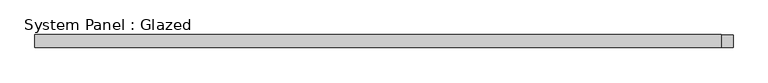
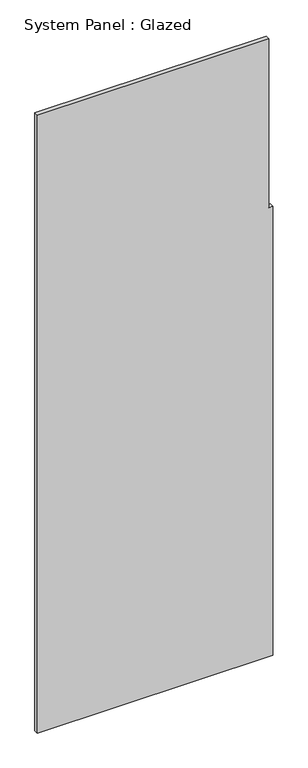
"""IFC4 building model written with IfcOpenShell, lengths in millimetres: plate geometry, System Panel : Glazed."""

from ifc_helpers import new_model, si_unit, frame, origin, place, context, project, spatial, polyline, outline, extrude, source, transform, mapped, element, save


def system_panel_glazed_93e8f09b(model_context):
    return source(origin(), model_context, "Body", "SweptSolid", [
        extrude(outline(polyline([(0.0, -676.1589134), (0.0, 676.1589134), (2725.0, 676.1589134), (2725.0, 653.5019672), (3750.0, 653.5019672), (3750.0, -676.1589134), (0.0, -676.1589134)])), frame((0.0, -49.5, 0.0), z_axis=(0.0, 1.0, 0.0), x_axis=(0.0, 0.0, 1.0)), (0.0, 0.0, 1.0), 25.0),
    ])


if __name__ == "__main__":
    model = new_model("IFC4")
    model_context = context("Model", 3, world=origin())
    ifc_project = project(units=[si_unit("LENGTHUNIT", "METRE", prefix="MILLI")], contexts=[model_context])
    site = spatial("IfcSite", under=ifc_project)
    building = spatial("IfcBuilding", under=site)
    placement = place(None, origin())
    system_panel_glazed_shape = system_panel_glazed_93e8f09b(model_context)
    element("IfcPlate", 1, ObjectType="System Panel : Glazed", at=placement, inside=building, context=model_context, shape_type="MappedRepresentation", body=[
        mapped(system_panel_glazed_shape, transform((0.0, 0.0, 0.0), x_axis=(1.0, 0.0, 0.0), y_axis=(0.0, 1.0, 0.0), z_axis=(0.0, 0.0, 1.0))),
    ])
    save(model, "model.ifc")
